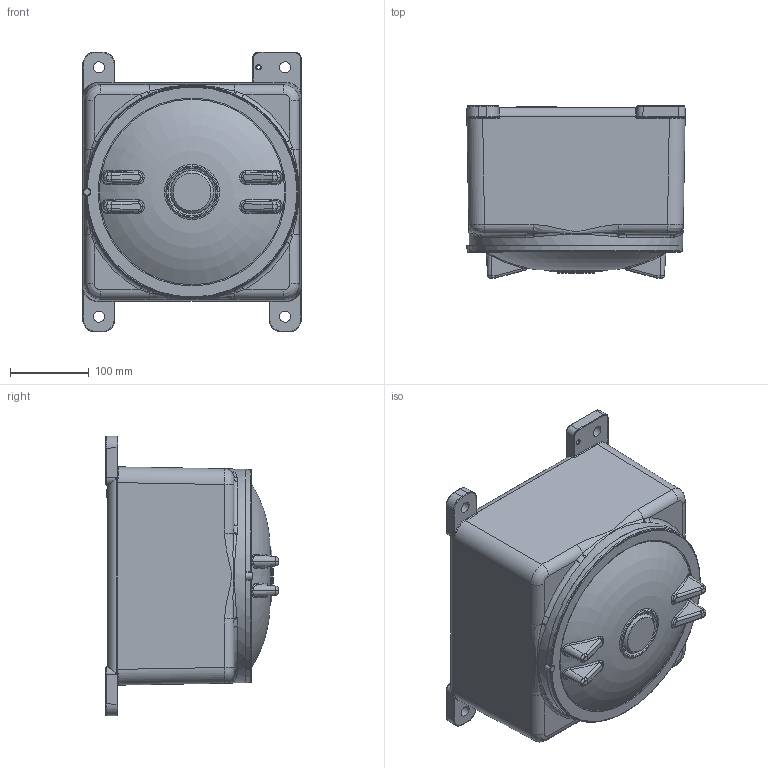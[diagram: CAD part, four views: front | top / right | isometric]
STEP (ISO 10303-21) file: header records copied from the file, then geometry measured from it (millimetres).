
FILE_DESCRIPTION(('STEP AP203'), '1');
FILE_NAME('栖闉罻_扻豵鵨 岈1-01', '', ('UNSPECIFIED'), ('UNSPECIFIED'), 'C3D Converter', 'C3D Toolkit', '');
FILE_SCHEMA(('CONFIG_CONTROL_DESIGN'));
Length unit declared in the file: millimetre
Assembly tree (2 placements, depth 2):
  (unnamed)
    (unnamed)
    (unnamed)
Bounding box: 276.53 x 218 x 354.5 mm (x, y, z)
Volume: 4372148.4 mm3; surface area: 683498.2 mm2
Topology: 2 solids, 2 shells, 558 faces, 1326 edges, 761 vertices
Faces by surface type: cylinder 176, bspline 160, plane 109, torus 48, cone 46, sphere 16, revolution 3
Full cylindrical faces by diameter (mm): 4.917 x7, 244 x1, 246.8 x1, 250 x1
Entity records: 46212 total; most frequent: CARTESIAN_POINT 30458, ORIENTED_EDGE 2494, DIRECTION 1999, EDGE_CURVE 1247, AXIS2_PLACEMENT_3D 805, VERTEX_POINT 754, EDGE_LOOP 629, FACE_BOUND 578
